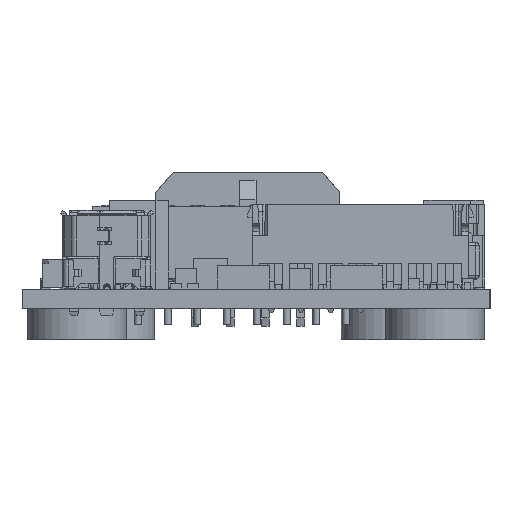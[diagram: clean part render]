
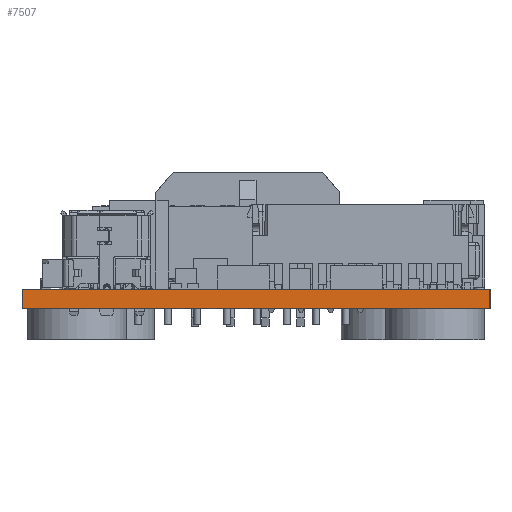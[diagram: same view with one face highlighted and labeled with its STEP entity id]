
A CAD part, left-side view. The second image highlights one B-rep face of the part: STEP entity #7507.
In plain terms, the highlighted planar face has unit normal (-1, 0, 0).
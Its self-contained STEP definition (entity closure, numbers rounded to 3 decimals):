
#541=FACE_OUTER_BOUND('',#49596,.T.);
#7507=ADVANCED_FACE('',(#541),#13737,.T.);
#13737=PLANE('',#118244);
#21189=LINE('',#159300,#34755);
#21645=LINE('',#160401,#35211);
#21646=LINE('',#160403,#35212);
#21647=LINE('',#160405,#35213);
#34755=VECTOR('',#126983,1.);
#35211=VECTOR('',#127535,1.);
#35212=VECTOR('',#127536,1.);
#35213=VECTOR('',#127537,1.);
#49596=EDGE_LOOP('',(#57948,#57949,#57950,#57951));
#57948=ORIENTED_EDGE('',*,*,#102024,.T.);
#57949=ORIENTED_EDGE('',*,*,#101515,.T.);
#57950=ORIENTED_EDGE('',*,*,#102025,.F.);
#57951=ORIENTED_EDGE('',*,*,#102026,.F.);
#90571=VERTEX_POINT('',#159295);
#90573=VERTEX_POINT('',#159299);
#91082=VERTEX_POINT('',#160402);
#91083=VERTEX_POINT('',#160404);
#101515=EDGE_CURVE('',#90571,#90573,#21189,.T.);
#102024=EDGE_CURVE('',#91082,#90571,#21645,.T.);
#102025=EDGE_CURVE('',#91083,#90573,#21646,.T.);
#102026=EDGE_CURVE('',#91082,#91083,#21647,.T.);
#118244=AXIS2_PLACEMENT_3D('',#160406,#127538,#127539);
#126983=DIRECTION('',(0.,1.,0.));
#127535=DIRECTION('',(0.,0.,1.));
#127536=DIRECTION('',(0.,0.,1.));
#127537=DIRECTION('',(0.,1.,0.));
#127538=DIRECTION('',(-1.,0.,0.));
#127539=DIRECTION('',(0.,-1.,0.));
#159295=CARTESIAN_POINT('',(0.,0.,0.));
#159299=CARTESIAN_POINT('',(0.,40.,0.));
#159300=CARTESIAN_POINT('',(0.,0.,0.));
#160401=CARTESIAN_POINT('',(0.,0.,-1.662));
#160402=CARTESIAN_POINT('',(0.,0.,-1.662));
#160403=CARTESIAN_POINT('',(0.,40.,-1.662));
#160404=CARTESIAN_POINT('',(0.,40.,-1.662));
#160405=CARTESIAN_POINT('',(0.,0.,-1.662));
#160406=CARTESIAN_POINT('',(0.,0.,-1.662));
